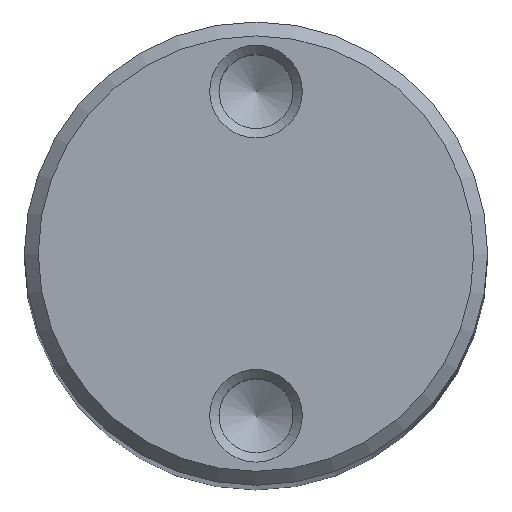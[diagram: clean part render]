
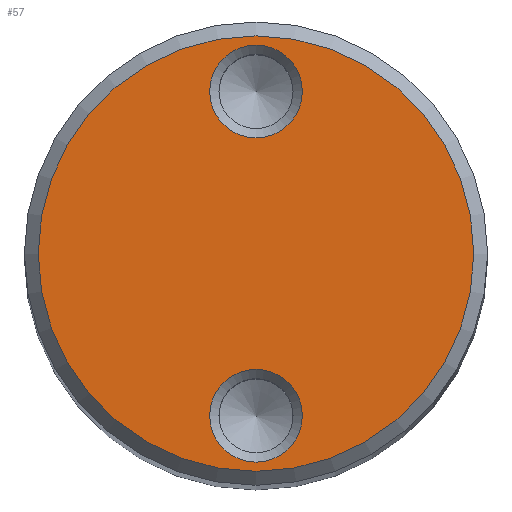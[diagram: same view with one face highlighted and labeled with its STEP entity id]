
A CAD part, top view. The second image highlights one B-rep face of the part: STEP entity #57.
In plain terms, the highlighted planar face has unit normal (0, 0, 1).
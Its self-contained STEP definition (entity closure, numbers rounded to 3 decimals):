
#57=ADVANCED_FACE('',(#77,#78,#79),#73,.T.);
#73=PLANE('',#219);
#77=FACE_BOUND('',#108,.T.);
#78=FACE_BOUND('',#109,.T.);
#79=FACE_BOUND('',#110,.T.);
#108=EDGE_LOOP('',(#138));
#109=EDGE_LOOP('',(#139));
#110=EDGE_LOOP('',(#140));
#138=ORIENTED_EDGE('',*,*,#185,.T.);
#139=ORIENTED_EDGE('',*,*,#186,.T.);
#140=ORIENTED_EDGE('',*,*,#187,.T.);
#168=VERTEX_POINT('',#313);
#169=VERTEX_POINT('',#315);
#170=VERTEX_POINT('',#317);
#185=EDGE_CURVE('',#168,#168,#200,.T.);
#186=EDGE_CURVE('',#169,#169,#201,.T.);
#187=EDGE_CURVE('',#170,#170,#202,.T.);
#200=CIRCLE('',#216,4.7);
#201=CIRCLE('',#217,1.);
#202=CIRCLE('',#218,1.);
#216=AXIS2_PLACEMENT_3D('',#312,#249,#250);
#217=AXIS2_PLACEMENT_3D('',#314,#251,#252);
#218=AXIS2_PLACEMENT_3D('',#316,#253,#254);
#219=AXIS2_PLACEMENT_3D('',#318,#255,#256);
#249=DIRECTION('',(0.,0.,1.));
#250=DIRECTION('',(1.,0.,0.));
#251=DIRECTION('',(0.,0.,-1.));
#252=DIRECTION('',(1.,0.,0.));
#253=DIRECTION('',(0.,0.,-1.));
#254=DIRECTION('',(1.,0.,0.));
#255=DIRECTION('',(0.,0.,1.));
#256=DIRECTION('',(1.,0.,0.));
#312=CARTESIAN_POINT('',(0.,0.,69.));
#313=CARTESIAN_POINT('',(4.7,0.,69.));
#314=CARTESIAN_POINT('',(0.,3.5,69.));
#315=CARTESIAN_POINT('',(1.,3.5,69.));
#316=CARTESIAN_POINT('',(0.,-3.5,69.));
#317=CARTESIAN_POINT('',(1.,-3.5,69.));
#318=CARTESIAN_POINT('',(0.,0.,69.));
